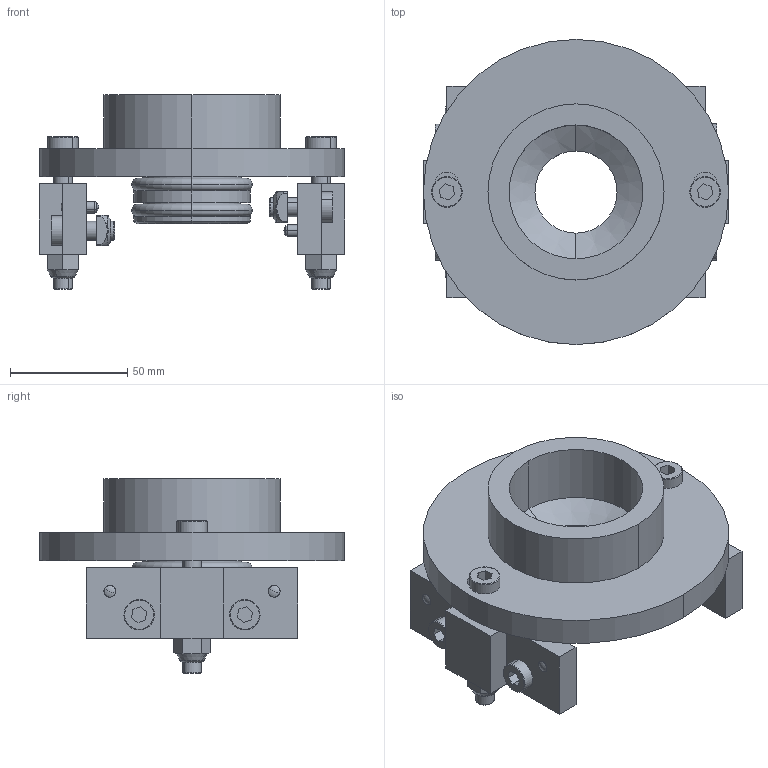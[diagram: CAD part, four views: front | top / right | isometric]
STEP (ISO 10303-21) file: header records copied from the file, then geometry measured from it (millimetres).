
FILE_DESCRIPTION (( 'STEP AP214' ), '1' );
FILE_NAME ('900.400.104.STEP', '2015-02-23T15:43:20', ( '' ), ( '' ), 'SwSTEP 2.0', 'SolidWorks 2012', '' );
FILE_SCHEMA (( 'AUTOMOTIVE_DESIGN' ));
Length unit declared in the file: millimetre
Products named in the file (9): 084.302.000 DADI ALUSIC 13x13-1_084.302.004; 084.301.000 VITI ALUSIC_084.301.007; 900.400.010; DADI ESAGONALI AUTOBLOCCANTI UNI 7473_M8 UNI 7473; SPINE CILINDRICHE_5x16 UNI 1707; 800.018.014; 084.301.000 VITI ALUSIC_084.301.012; 900.400.104; GUARNIZIONI OR_OR 6162
Assembly tree (21 placements, depth 2):
  900.400.104
    084.301.000 VITI ALUSIC_084.301.012  x4
    800.018.014  x2
    SPINE CILINDRICHE_5x16 UNI 1707  x4
    DADI ESAGONALI AUTOBLOCCANTI UNI 7473_M8 UNI 7473  x2
    900.400.010
    084.301.000 VITI ALUSIC_084.301.007  x2
    084.302.000 DADI ALUSIC 13x13-1_084.302.004  x4
    GUARNIZIONI OR_OR 6162  x2
Bounding box: 130 x 130 x 83 mm (x, y, z)
Volume: 279732.5 mm3; surface area: 86898.8 mm2
Topology: 21 solids, 21 shells, 385 faces, 892 edges, 556 vertices
Faces by surface type: plane 133, cylinder 110, cone 62, torus 56, bspline 16, sphere 8
Entity records: 5516 total; most frequent: CARTESIAN_POINT 1300, DIRECTION 840, ORIENTED_EDGE 740, EDGE_CURVE 370, AXIS2_PLACEMENT_3D 342, VERTEX_POINT 232, EDGE_LOOP 192, ADVANCED_FACE 162
